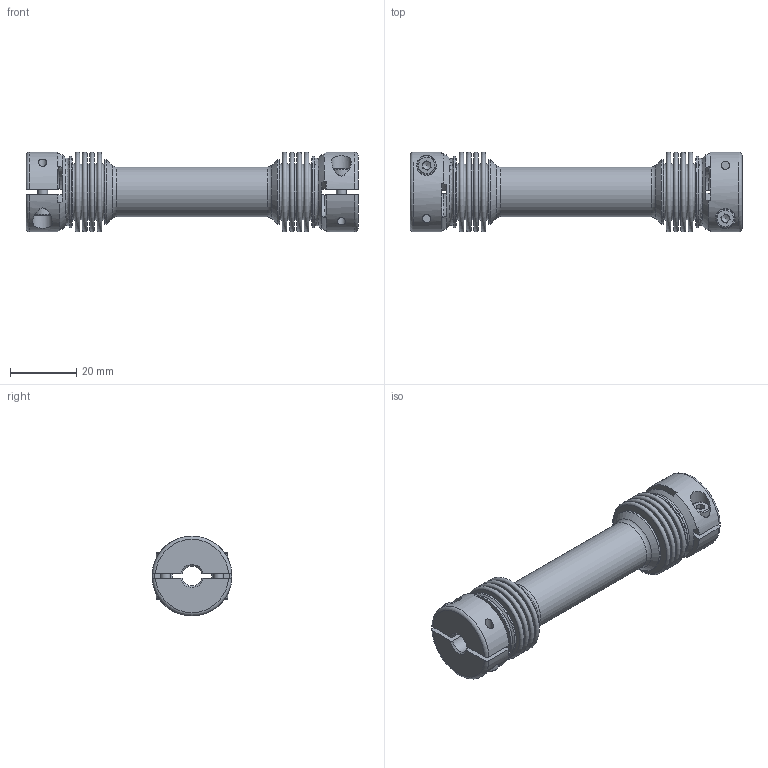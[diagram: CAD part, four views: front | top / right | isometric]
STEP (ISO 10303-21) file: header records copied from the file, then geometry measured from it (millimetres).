
FILE_DESCRIPTION(/* description */ ('Unknown','CAx-IF Rec.Pracs.---Representation and Presentation of Product Manufacturing Information (PMI)---4.0---2014-10-13','CAx-IF Rec.Pracs.---3D Tessellated Geometry---0.4---2014-09-14','2;1'),/* implementation_level */ '2;1');
FILE_NAME(/* name */ 'WDB 4',/* time_stamp */ '2023-01-16T11:36:41+01:00',/* author */ ('Unknown'),/* organization */ ('Unknown'),/* preprocessor_version */ 'ST-DEVELOPER v18.102',/* originating_system */ 'Solid Edge',/* authorisation */ 'Unknown');
FILE_SCHEMA (('AP242_MANAGED_MODEL_BASED_3D_ENGINEERING_MIM_LF { 1 0 10303 442 1 1 4 }'));
Length unit declared in the file: millimetre
Products named in the file (1): 16824401-step2
Bounding box: 99.95 x 24 x 24 mm (x, y, z)
Volume: 14656.6 mm3; surface area: 22818.4 mm2
Topology: 1 solids, 1 shells, 270 faces, 610 edges, 392 vertices
Faces by surface type: plane 140, torus 58, cylinder 48, cone 24
Full cylindrical faces by diameter (mm): 2.459 x4, 3 x4, 3.4 x4, 5.5 x4, 6 x4, 12 x1, 14 x2, 15 x1, 18.508 x2, 19.5 x2, 20.9 x2, 21.5 x2
Entity records: 9096 total; most frequent: CARTESIAN_POINT 1621, DIRECTION 1200, ORIENTED_EDGE 952, AXIS2_PLACEMENT_3D 520, EDGE_CURVE 476, FACE_BOUND 436, EDGE_LOOP 432, VERTEX_POINT 364
